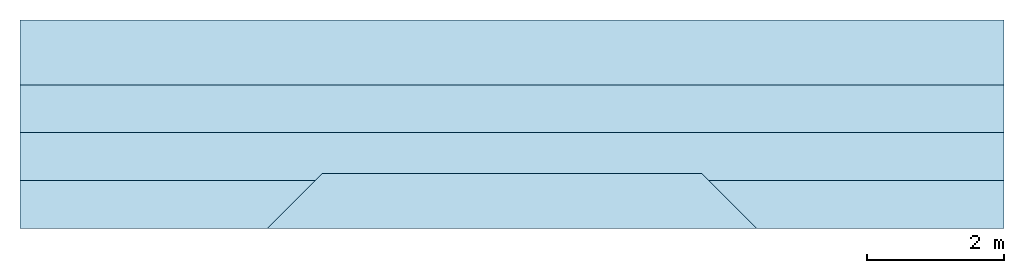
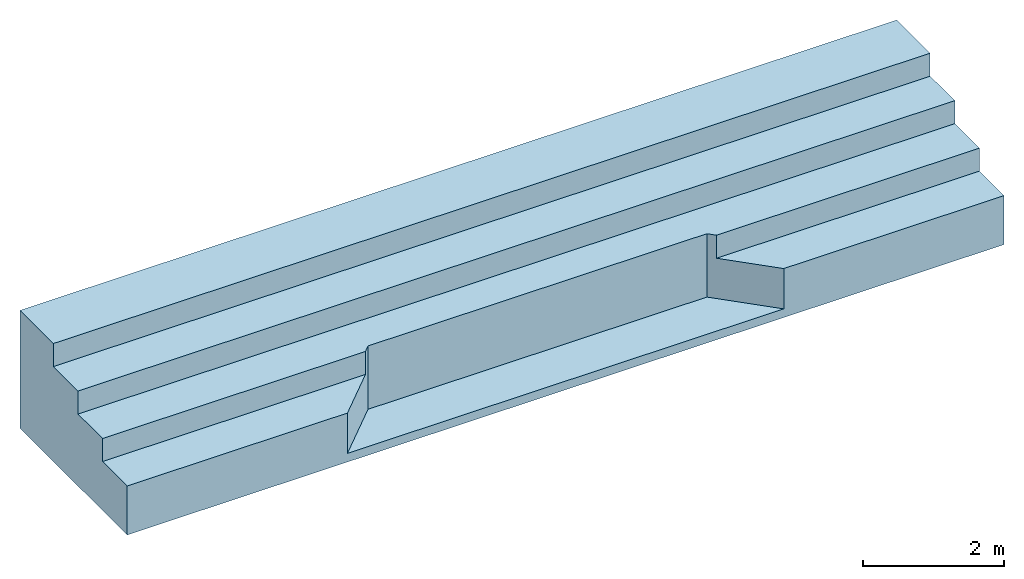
# One storey: 1 slab.
"""IFC4 building model written with IfcOpenShell, lengths in centimetres."""

import ifcopenshell
import ifcopenshell.guid

model = None  # the IFC model being written
_history = None  # IfcOwnerHistory: only IFC2X3 demands one
_inside = {}  # id of a spatial element -> (the spatial element, [elements in it])
_under = {}  # id of a project, library or spatial element -> (it, [spatial elements below it])
_declared = {}  # id of a project -> (the project, [libraries it declares])
_typed = {}  # id of a type object -> (the type object, [elements of that type])
_made_of = {}  # id of a material, layer set ... -> (it, [elements and type objects made of it])


def new_model(schema):
    """Start an empty IFC model of exactly this schema.

    Asked for "IFC4X3", IfcOpenShell would pick the latest addendum, in which some entities
    have other attributes; the version numbers below select the first issue.
    IFC2X3 requires an IfcOwnerHistory on every rooted entity: one is made here for all.
    """
    global model, _history
    if schema == "IFC4X3":
        model = ifcopenshell.file(schema_version=(4, 3, 0, 0))
    else:
        model = ifcopenshell.file(schema=schema)
    _inside.clear()
    _under.clear()
    _declared.clear()
    _typed.clear()
    _made_of.clear()
    _history = None
    if model.schema == "IFC2X3":
        org = make("IfcOrganization", Name="unknown")
        user = make(
            "IfcPersonAndOrganization",
            ThePerson=make("IfcPerson", FamilyName="unknown"),
            TheOrganization=org,
        )
        app = make(
            "IfcApplication",
            ApplicationDeveloper=org,
            Version="unknown",
            ApplicationFullName="unknown",
            ApplicationIdentifier="unknown",
        )
        _history = make(
            "IfcOwnerHistory",
            OwningUser=user,
            OwningApplication=app,
            ChangeAction="ADDED",
            CreationDate=0,
        )
    return model


def make(cls, **values):
    """One entity of the class cls with the attributes given. An attribute that is None is left unset."""
    return model.create_entity(
        cls, **{name: value for name, value in values.items() if value is not None}
    )


def entity(cls, *values):
    """Any entity or typed value of the class cls, its attributes in the order of the schema. None: left unset."""
    e = model.create_entity(cls)
    for i, value in enumerate(values):
        if value is not None:
            e[i] = value
    return e


def rooted(cls, **values):
    """An entity with a GlobalId (a new one), such as an element, a storey or a relation."""
    return make(cls, GlobalId=ifcopenshell.guid.new(), OwnerHistory=_history, **values)


def si_unit(unit_type, name, prefix=None):
    """IfcSIUnit, for example si_unit("LENGTHUNIT", "METRE", prefix="MILLI")."""
    return make("IfcSIUnit", UnitType=unit_type, Prefix=prefix, Name=name)


def converted_unit(unit_type, name, factor, base, dimensions=None, offset=None):
    """IfcConversionBasedUnit, such as the inch: factor (a typed value) times the base unit."""
    return make(
        "IfcConversionBasedUnit"
        if offset is None
        else "IfcConversionBasedUnitWithOffset",
        ConversionOffset=offset,
        Dimensions=None
        if dimensions is None
        else entity("IfcDimensionalExponents", *dimensions),
        UnitType=unit_type,
        Name=name,
        ConversionFactor=make(
            "IfcMeasureWithUnit", ValueComponent=factor, UnitComponent=base
        ),
    )


def derived_unit(unit_type, elements):
    """IfcDerivedUnit: a product of units, each with its exponent."""
    return make(
        "IfcDerivedUnit",
        Elements=[
            make("IfcDerivedUnitElement", Unit=unit, Exponent=power)
            for unit, power in elements
        ],
        UnitType=unit_type,
    )


def assignment(units):
    """IfcUnitAssignment: the units of a project."""
    return None if units is None else make("IfcUnitAssignment", Units=units)


def point(xyz):
    """IfcCartesianPoint."""
    return None if xyz is None else make("IfcCartesianPoint", Coordinates=xyz)


def direction(xyz):
    """IfcDirection."""
    return None if xyz is None else make("IfcDirection", DirectionRatios=xyz)


def frame(location, z_axis=None, x_axis=None):
    """IfcAxis2Placement3D, a coordinate frame: its origin and axes. An axis left out is left unset."""
    return make(
        "IfcAxis2Placement3D",
        Location=point(location),
        Axis=direction(z_axis),
        RefDirection=direction(x_axis),
    )


def origin():
    """The frame at (0, 0, 0) with its axes left unset."""
    return frame((0.0, 0.0, 0.0))


def place(relative_to, where):
    """IfcLocalPlacement: puts the frame where relative to a parent placement (None: the world)."""
    return make(
        "IfcLocalPlacement", PlacementRelTo=relative_to, RelativePlacement=where
    )


def context(
    kind, dimensions, precision=None, world=None, true_north=None, identifier=None
):
    """IfcGeometricRepresentationContext, for example the 3D "Model" context."""
    return make(
        "IfcGeometricRepresentationContext",
        ContextIdentifier=identifier,
        ContextType=kind,
        CoordinateSpaceDimension=dimensions,
        Precision=precision,
        WorldCoordinateSystem=world,
        TrueNorth=true_north,
    )


def subcontext(parent, identifier, kind, view, scale=None):
    """IfcGeometricRepresentationSubContext, for example "Body" below "Model"."""
    return make(
        "IfcGeometricRepresentationSubContext",
        ContextIdentifier=identifier,
        ContextType=kind,
        ParentContext=parent,
        TargetScale=scale,
        TargetView=view,
    )


def project(units=None, contexts=None):
    """IfcProject with its units and contexts."""
    return rooted(
        "IfcProject",
        Name="project",
        RepresentationContexts=contexts,
        UnitsInContext=assignment(units),
    )


def spatial(cls, under=None, at=None, **own):
    """A site, building, storey or space (cls), placed at a placement, below another one or the project."""
    s = rooted(cls, ObjectPlacement=at, **own)
    if under is not None:
        _under.setdefault(under.id(), (under, []))[1].append(s)
    return s


def point_list(points):
    """IfcCartesianPointList2D or 3D."""
    cls = (
        "IfcCartesianPointList2D" if len(points[0]) == 2 else "IfcCartesianPointList3D"
    )
    return make(cls, CoordList=points)


def polygons(points, faces, closed=None, point_numbers=None):
    """IfcPolygonalFaceSet: a face is its outer loop, then its inner loops; points numbered from 1."""
    made = []
    for loops in faces:
        if len(loops) == 1:
            made.append(make("IfcIndexedPolygonalFace", CoordIndex=loops[0]))
        else:
            made.append(
                make(
                    "IfcIndexedPolygonalFaceWithVoids",
                    CoordIndex=loops[0],
                    InnerCoordIndices=loops[1:],
                )
            )
    return make(
        "IfcPolygonalFaceSet",
        Coordinates=point_list(points),
        Closed=closed,
        Faces=made,
        PnIndex=point_numbers,
    )


def shape(context_of_items, identifier, shape_type, items):
    """IfcShapeRepresentation: the items that make up one representation, for example the "Body"."""
    return make(
        "IfcShapeRepresentation",
        ContextOfItems=context_of_items,
        RepresentationIdentifier=identifier,
        RepresentationType=shape_type,
        Items=items,
    )


def material(Name=None, Category=None):
    """IfcMaterial."""
    return make("IfcMaterial", Name=Name, Category=Category)


def made_of(thing, what):
    """Note that an element or type object is made of a material, layer set ...; save() writes the relation."""
    if what is not None:
        _made_of.setdefault(what.id(), (what, []))[1].append(thing)
    return thing


def type_object(cls, material=None, **own):
    """A type object (cls), such as IfcWallType, which elements share."""
    return made_of(rooted(cls, **own), material)


def element(
    cls,
    number,
    at=None,
    inside=None,
    cuts=None,
    type_object=None,
    material=None,
    context=None,
    identifier="Body",
    shape_type=None,
    held_by="IfcProductDefinitionShape",
    body=None,
    shapes=None,
    **own,
):
    """One element of the class cls, such as IfcWall. Its Tag is "e" and its number.

    at: its placement. inside: the storey or other place that contains it. cuts: it is an
    opening in that element (IfcRelVoidsElement). A single representation is given by context,
    identifier, shape_type and body (its items); several are given by shapes. held_by: the class
    of the entity that holds the representations. save() writes the other relations.
    """
    e = rooted(cls, Tag="e%d" % number, ObjectPlacement=at, **own)
    if body is not None:
        shapes = [shape(context, identifier, shape_type, body)]
    if shapes is not None:
        e.Representation = make(held_by, Representations=shapes)
    if inside is not None:
        _inside.setdefault(inside.id(), (inside, []))[1].append(e)
    if cuts is not None:
        rooted(
            "IfcRelVoidsElement", RelatingBuildingElement=cuts, RelatedOpeningElement=e
        )
    if type_object is not None:
        _typed.setdefault(type_object.id(), (type_object, []))[1].append(e)
    return made_of(e, material)


def aggregate(whole, parts):
    """IfcRelAggregates: a whole, such as a stair, and the parts it consists of."""
    return rooted("IfcRelAggregates", RelatingObject=whole, RelatedObjects=parts)


def save(model, path):
    """Write the relations noted so far, then the file.

    IfcRelAggregates (storeys below a building ...), IfcRelContainedInSpatialStructure (elements
    in a storey), IfcRelDefinesByType, IfcRelAssociatesMaterial and IfcRelDeclares: one each for
    every whole, place, type object, material and project.
    """
    for whole, parts in _under.values():
        aggregate(whole, parts)
    for where, things in _inside.values():
        rooted(
            "IfcRelContainedInSpatialStructure",
            RelatedElements=things,
            RelatingStructure=where,
        )
    for kind, things in _typed.values():
        rooted("IfcRelDefinesByType", RelatedObjects=things, RelatingType=kind)
    for what, things in _made_of.values():
        rooted("IfcRelAssociatesMaterial", RelatedObjects=things, RelatingMaterial=what)
    for by, libraries in _declared.values():
        rooted("IfcRelDeclares", RelatingContext=by, RelatedDefinitions=libraries)
    model.write(path)


model = new_model("IFC4")

# Units and contexts
model_context = context("Model", 3, precision=0.001, world=origin(), true_north=direction((6.123233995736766e-17, 1.0)))
body_context = subcontext(model_context, "Body", "Model", "MODEL_VIEW")
ifc_project = project(units=[si_unit("LENGTHUNIT", "METRE", prefix="CENTI"), si_unit("AREAUNIT", "SQUARE_METRE"), converted_unit("PLANEANGLEUNIT", "DEGREE", entity("IfcPlaneAngleMeasure", 0.017453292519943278), si_unit("PLANEANGLEUNIT", "RADIAN"), dimensions=[0, 0, 0, 0, 0, 0, 0]), si_unit("VOLUMEUNIT", "CUBIC_METRE"), derived_unit("THERMALTRANSMITTANCEUNIT", [(si_unit("MASSUNIT", "GRAM", prefix="KILO"), 1), (si_unit("THERMODYNAMICTEMPERATUREUNIT", "KELVIN"), -1), (si_unit("TIMEUNIT", "SECOND"), -3)])], contexts=[model_context])

# Site, building, storey
site_placement = place(None, origin())
site = spatial("IfcSite", under=ifc_project, at=site_placement, Name="Default", CompositionType="ELEMENT")
building_placement = place(site_placement, origin())
building = spatial("IfcBuilding", under=site, at=building_placement, Name="CONTENÇÃO DE ARQUIBANCADA - GINÁSIO PADRÃO", CompositionType="ELEMENT")
storey_placement = place(building_placement, frame((0.0, 0.0, 300.0)))
storey = spatial("IfcBuildingStorey", under=building, at=storey_placement, Name="Nível 2", CompositionType="ELEMENT", Elevation=300.0)

# Slab
ifc_material = material(Name="Terra", Category="Genérico")
slab_type = type_object("IfcSlabType", Name="Pisos 1:Pisos 1", PredefinedType="FLOOR", material=ifc_material)
slab_placement = place(storey_placement, frame((0.0, 0.0, -300.0)))
element("IfcSlab", 1, at=slab_placement, inside=storey, type_object=slab_type, Name="Pisos 1:Pisos 1", ObjectType="Pisos 1:Pisos 1", PredefinedType="FLOOR", context=body_context, shape_type="Tessellation", body=[
    polygons([(-435.5446839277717, 244.07417522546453, 69.99999999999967), (-435.5446839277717, 244.07417522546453, 109.99999999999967), (-435.5446839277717, 314.0741752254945, 109.99999999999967), (-435.5446839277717, 314.0741752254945, 149.9999999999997), (-435.5446839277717, 384.0741752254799, 149.9999999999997), (-435.5446839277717, 384.0741752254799, 189.9999999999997), (-435.5446839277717, 479.07417522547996, 189.9999999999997), (-435.5446839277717, 479.07417522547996, -15.0), (-435.5446839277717, 174.07417522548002, -15.0), (-435.5446839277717, 174.07417522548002, 69.99999999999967), (1004.4553160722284, 244.07417522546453, 69.99999999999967), (1004.4553160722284, 174.07417522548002, 69.99999999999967), (1004.4553160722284, 174.07417522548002, -15.0), (1004.4553160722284, 479.07417522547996, -15.0), (1004.4553160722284, 479.07417522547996, 189.9999999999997), (1004.4553160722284, 384.0741752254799, 189.9999999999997), (1004.4553160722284, 384.0741752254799, 149.9999999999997), (1004.4553160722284, 314.0741752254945, 149.9999999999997), (1004.4553160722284, 314.0741752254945, 109.99999999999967), (1004.4553160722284, 244.07417522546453, 109.99999999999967), (-3.8770940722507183, 244.0741752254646, 69.99999999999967), (-3.8770940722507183, 244.0741752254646, 109.99999999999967), (6.113845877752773, 254.074175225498, 109.99999999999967), (562.7281622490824, 254.074175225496, 109.99999999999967), (572.7281622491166, 244.07417522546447, 109.99999999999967), (642.72816224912, 174.07417522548, 69.99999999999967), (642.72816224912, 174.07417522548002, 0.0), (-73.81367372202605, 174.07417522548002, 0.0), (-73.81367372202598, 174.07417522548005, 69.99999999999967), (562.7281622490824, 254.07417522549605, 0.0), (6.1138458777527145, 254.07417522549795, 0.0), (572.7281622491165, 244.07417522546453, 69.99999999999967)], [[[1, 2, 3, 4, 5, 6, 7, 8, 9, 10]], [[11, 12, 13, 14, 15, 16, 17, 18, 19, 20]], [[2, 1, 21, 22]], [[3, 2, 22, 23, 24, 25, 20, 19]], [[4, 3, 19, 18]], [[5, 4, 18, 17]], [[6, 5, 17, 16]], [[7, 6, 16, 15]], [[8, 7, 15, 14]], [[9, 8, 14, 13]], [[10, 9, 13, 12, 26, 27, 28, 29]], [[1, 10, 29, 21]], [[30, 31, 28, 27]], [[31, 30, 24, 23]], [[28, 31, 23, 22, 21, 29]], [[30, 27, 26, 32, 25, 24]], [[11, 20, 25, 32]], [[12, 11, 32, 26]]], closed=True),
])

save(model, "model.ifc")
